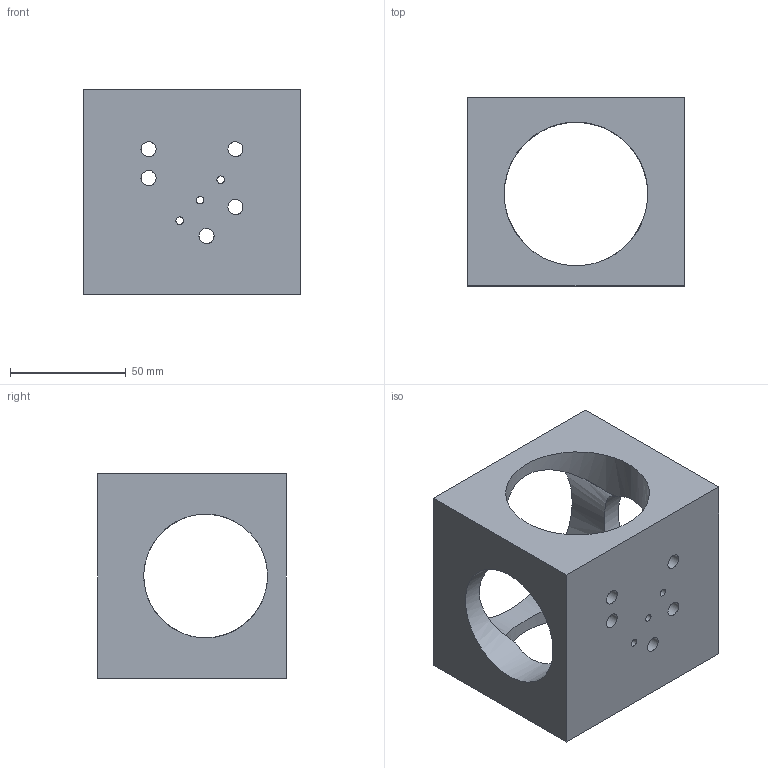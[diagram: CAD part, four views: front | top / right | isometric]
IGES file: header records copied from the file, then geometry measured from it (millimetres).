
Global section: file name: cage1; native system: Autodesk Inventor 2024; preprocessor: unknown; author: xuwenjie; date: 20260407.150952; units: millimetre
Bounding box: 93.2 x 81.2 x 88.2 mm (x, y, z)
Volume: 211593.1 mm3; surface area: 52034.4 mm2
Topology: 1 solids, 1 shells, 21 faces, 78 edges, 56 vertices
Faces by surface type: bspline 21
